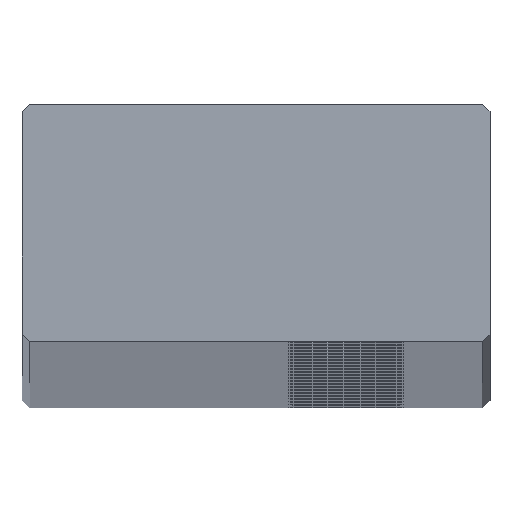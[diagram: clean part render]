
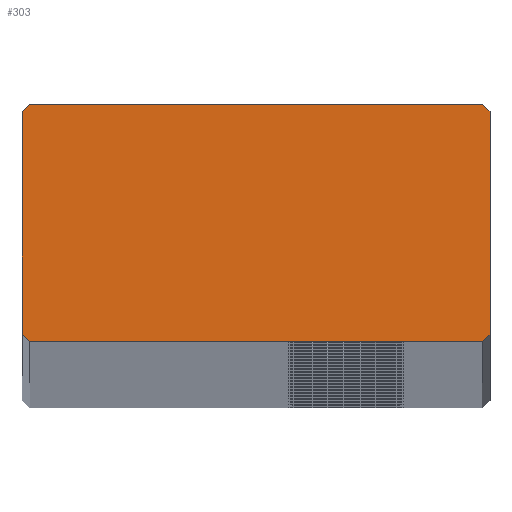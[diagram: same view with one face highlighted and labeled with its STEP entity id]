
A CAD part, top view. The second image highlights one B-rep face of the part: STEP entity #303.
In plain terms, the highlighted planar face has unit normal (0, 0, 1).
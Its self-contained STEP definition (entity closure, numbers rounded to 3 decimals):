
#303=ADVANCED_FACE('',(#894),#895,.T.);
#894=FACE_OUTER_BOUND('',#1486,.T.);
#895=PLANE('',#1487);
#1486=EDGE_LOOP('',(#3262,#3263,#3264,#3265,#3266,#3267,#3268,#3269));
#1487=AXIS2_PLACEMENT_3D('',#3270,#3271,#3272);
#3262=ORIENTED_EDGE('',*,*,#3812,.F.);
#3263=ORIENTED_EDGE('',*,*,#3834,.F.);
#3264=ORIENTED_EDGE('',*,*,#3831,.F.);
#3265=ORIENTED_EDGE('',*,*,#3828,.F.);
#3266=ORIENTED_EDGE('',*,*,#3825,.F.);
#3267=ORIENTED_EDGE('',*,*,#3822,.F.);
#3268=ORIENTED_EDGE('',*,*,#3819,.F.);
#3269=ORIENTED_EDGE('',*,*,#3816,.F.);
#3270=CARTESIAN_POINT('',(0.,6.2,1976.0));
#3271=DIRECTION('',(0.0,0.0,1.0));
#3272=DIRECTION('',(1.0,0.0,0.0));
#3812=EDGE_CURVE('',#4716,#4717,#4718,.T.);
#3816=EDGE_CURVE('',#4717,#4724,#4725,.T.);
#3819=EDGE_CURVE('',#4724,#4729,#4730,.T.);
#3822=EDGE_CURVE('',#4729,#4734,#4735,.T.);
#3825=EDGE_CURVE('',#4734,#4739,#4740,.T.);
#3828=EDGE_CURVE('',#4739,#4744,#4745,.T.);
#3831=EDGE_CURVE('',#4744,#4749,#4750,.T.);
#3834=EDGE_CURVE('',#4749,#4716,#4754,.T.);
#4716=VERTEX_POINT('',#5812);
#4717=VERTEX_POINT('',#5813);
#4718=LINE('',#5814,#5815);
#4724=VERTEX_POINT('',#5824);
#4725=LINE('',#5825,#5826);
#4729=VERTEX_POINT('',#5832);
#4730=LINE('',#5833,#5834);
#4734=VERTEX_POINT('',#5840);
#4735=LINE('',#5841,#5842);
#4739=VERTEX_POINT('',#5848);
#4740=LINE('',#5849,#5850);
#4744=VERTEX_POINT('',#5856);
#4745=LINE('',#5857,#5858);
#4749=VERTEX_POINT('',#5864);
#4750=LINE('',#5865,#5866);
#4754=LINE('',#5872,#5873);
#5812=CARTESIAN_POINT('',(-11.8,0.,1976.0));
#5813=CARTESIAN_POINT('',(-12.2,0.4,1976.0));
#5814=CARTESIAN_POINT('',(-11.8,0.,1976.0));
#5815=VECTOR('',#7108,1.0);
#5824=CARTESIAN_POINT('',(-12.2,12.0,1976.0));
#5825=CARTESIAN_POINT('',(-12.2,0.4,1976.0));
#5826=VECTOR('',#7112,1.0);
#5832=CARTESIAN_POINT('',(-11.8,12.4,1976.0));
#5833=CARTESIAN_POINT('',(-12.2,12.0,1976.0));
#5834=VECTOR('',#7115,1.0);
#5840=CARTESIAN_POINT('',(11.8,12.4,1976.0));
#5841=CARTESIAN_POINT('',(-11.8,12.4,1976.0));
#5842=VECTOR('',#7118,1.0);
#5848=CARTESIAN_POINT('',(12.2,12.0,1976.0));
#5849=CARTESIAN_POINT('',(11.8,12.4,1976.0));
#5850=VECTOR('',#7121,1.0);
#5856=CARTESIAN_POINT('',(12.2,0.4,1976.0));
#5857=CARTESIAN_POINT('',(12.2,0.4,1976.0));
#5858=VECTOR('',#7124,1.0);
#5864=CARTESIAN_POINT('',(11.8,0.,1976.0));
#5865=CARTESIAN_POINT('',(11.8,0.,1976.0));
#5866=VECTOR('',#7127,1.0);
#5872=CARTESIAN_POINT('',(-11.8,0.,1976.0));
#5873=VECTOR('',#7130,1.0);
#7108=DIRECTION('',(-0.707,0.707,0.0));
#7112=DIRECTION('',(0.0,1.0,0.0));
#7115=DIRECTION('',(0.707,0.707,0.0));
#7118=DIRECTION('',(1.0,0.0,0.0));
#7121=DIRECTION('',(0.707,-0.707,0.0));
#7124=DIRECTION('',(-0.0,-1.0,-0.0));
#7127=DIRECTION('',(-0.707,-0.707,-0.0));
#7130=DIRECTION('',(-1.0,-0.0,-0.0));
